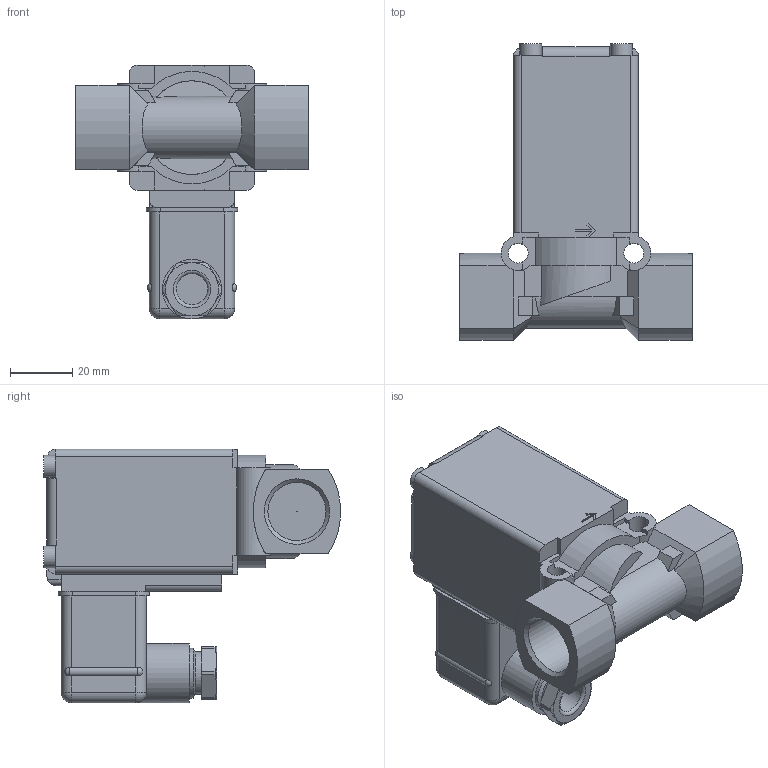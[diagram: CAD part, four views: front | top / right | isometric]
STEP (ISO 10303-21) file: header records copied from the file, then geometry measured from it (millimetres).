
FILE_DESCRIPTION(/* description */ ('STEP AP214'),/* implementation_level */ '2;1');
FILE_NAME(/* name */ '0256-145796-2_2-way_Solenoid_Valve',/* time_stamp */ '2024-08-05T14:52:31+02:00',/* author */ ('License CC BY-ND 4.0'),/* organization */ ('CADENAS'),/* preprocessor_version */ 'ST-DEVELOPER v19.3',/* originating_system */ 'PARTsolutions',/* authorisation */ ' ');
FILE_SCHEMA (('AUTOMOTIVE_DESIGN {1 0 10303 214 3 1 1}'));
Length unit declared in the file: millimetre
Products named in the file (1): 0256-145796-2/2-way Solenoid Valve
Bounding box: 74.5 x 95.02 x 81.2 mm (x, y, z)
Volume: 176927.1 mm3; surface area: 29883.2 mm2
Topology: 1 solids, 1 shells, 246 faces, 649 edges, 411 vertices
Faces by surface type: plane 157, cylinder 64, cone 16, sphere 8, torus 1
Full cylindrical faces by diameter (mm): 0.2 x1, 6.3 x2, 7 x5, 10 x1, 13.7 x1, 16 x1, 18.631 x2, 19 x1
Entity records: 9272 total; most frequent: CARTESIAN_POINT 1481, ORIENTED_EDGE 1250, DIRECTION 1250, EDGE_CURVE 625, AXIS2_PLACEMENT_3D 428, VERTEX_POINT 411, LINE 394, VECTOR 394
